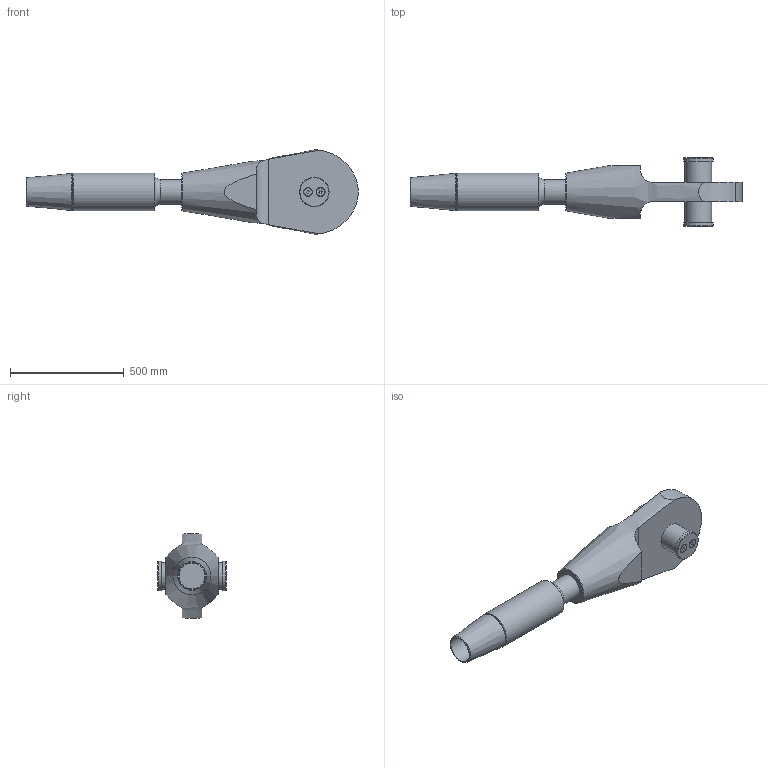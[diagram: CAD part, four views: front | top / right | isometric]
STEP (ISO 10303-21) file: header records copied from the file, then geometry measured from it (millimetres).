
FILE_DESCRIPTION(/* description */ (''),/* implementation_level */ '2;1');
FILE_NAME(/* name */ 'C:\Vault_WS\Designs\SB\01-PX\Verzinkt\ZSS\520 - Zusambau-OES-ADA\520-110-OES-ADA.stp',/* time_stamp */ '2020-10-08T09:59:04+02:00',/* author */ ('schwarz'),/* organization */ (''),/* preprocessor_version */ 'ST-DEVELOPER v18.1',/* originating_system */ 'Autodesk Inventor 2020',/* authorisation */ '');
FILE_SCHEMA (('AUTOMOTIVE_DESIGN { 1 0 10303 214 3 1 1 }'));
Length unit declared in the file: millimetre
Products named in the file (1): 520-110-OES-ADA-Kunde
Bounding box: 1461.36 x 302 x 370.95 mm (x, y, z)
Volume: 40054520.6 mm3; surface area: 1382223.8 mm2
Topology: 10 solids, 10 shells, 110 faces, 282 edges, 194 vertices
Faces by surface type: plane 51, cone 29, cylinder 28, torus 2
Full cylindrical faces by diameter (mm): 17.294 x4, 20 x4, 22 x4, 36.05 x4, 110 x1, 114 x1, 118 x1, 121 x1, 130 x2, 165 x1
Entity records: 3656 total; most frequent: CARTESIAN_POINT 785, DIRECTION 576, ORIENTED_EDGE 548, EDGE_CURVE 274, AXIS2_PLACEMENT_3D 234, VERTEX_POINT 194, EDGE_LOOP 130, CIRCLE 123
